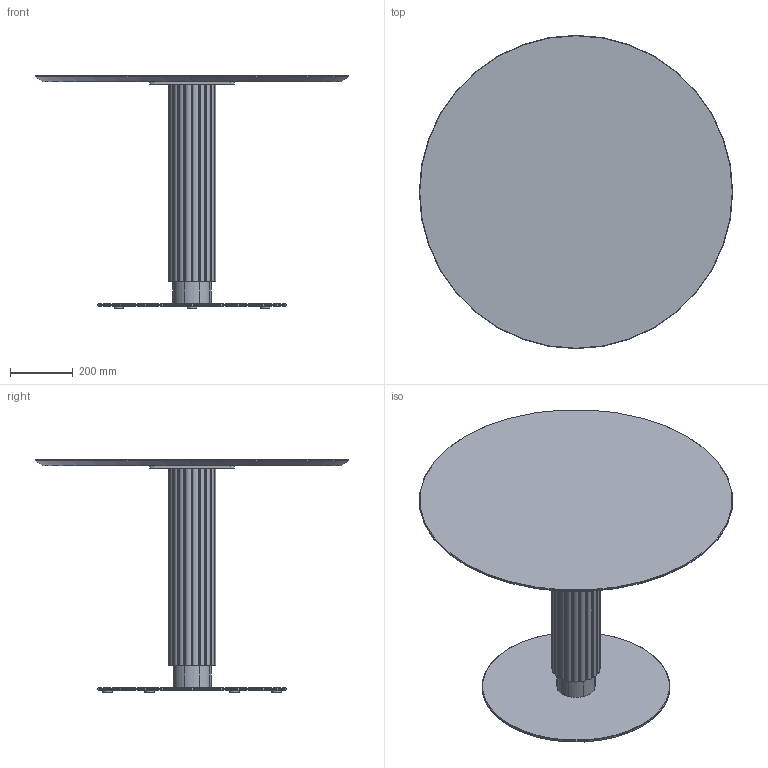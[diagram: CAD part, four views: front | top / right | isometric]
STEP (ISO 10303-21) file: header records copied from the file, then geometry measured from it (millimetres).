
FILE_DESCRIPTION( ('This file contains a STEP AP42 implementation' ,'as created by ZW3D STEP Interface translator.') ,'2;1' );
FILE_NAME( 'God - B_Rond - F1 - M5 - 1000 x 1000 x 750.stp' ,'24 912.114113', (''), ('ZWCAD Software Co.'), 'Version 1.0', 'ZW3D to STEP translator', '' );
FILE_SCHEMA(('AUTOMOTIVE_DESIGN { 1 0 10303 214 1 1 1 1 }'));
Length unit declared in the file: millimetre
Products named in the file (15): 0; PIED BISTROT PARAMETRIQUE_; CROIX ACIER 370 V.02_; CRX-X370-02_; SOCLE ACIER C Ø600 V.02_; SCL-D600-02_; PLA-R30A-01_; PLA-R30A-01; COLONNE ACIER Ø48.5 V.02_; TUB-D048-02_; PLA-R48A-01_; Colonne GODRON H700_; WUERTH 0276063020 Euro-screw 6.3x2 Verzinkt_; PLATEAU BISTROT PARAMETRIQUE_; insert_m6_13_
Assembly tree (25 placements, depth 3):
  0
  PIED BISTROT PARAMETRIQUE_
    CROIX ACIER 370 V.02_
      CRX-X370-02_
    SOCLE ACIER C Ø600 V.02_
      SCL-D600-02_
      PLA-R30A-01_
      PLA-R30A-01  x5
    COLONNE ACIER Ø48.5 V.02_
      TUB-D048-02_
      PLA-R48A-01_  x2
    Colonne GODRON H700_
    WUERTH 0276063020 Euro-screw 6.3x2 Verzinkt_
    PLATEAU BISTROT PARAMETRIQUE_
      insert_m6_13_  x8
Bounding box: 1000 x 1000 x 744 mm (x, y, z)
Volume: 28440157.5 mm3; surface area: 3596840 mm2
Topology: 29 solids, 29 shells, 656 faces, 1625 edges, 1042 vertices
Faces by surface type: plane 294, cylinder 193, bspline 121, cone 47, torus 1
Full cylindrical faces by diameter (mm): 4.88 x1, 6 x8, 6.3 x1, 8 x47, 12 x2, 14 x2, 30 x6, 44.5 x3, 48.5 x1, 600 x1
Entity records: 16234 total; most frequent: CARTESIAN_POINT 4039, DIRECTION 2249, ORIENTED_EDGE 2240, EDGE_CURVE 1120, AXIS2_PLACEMENT_3D 800, VERTEX_POINT 728, VECTOR 649, LINE 649
